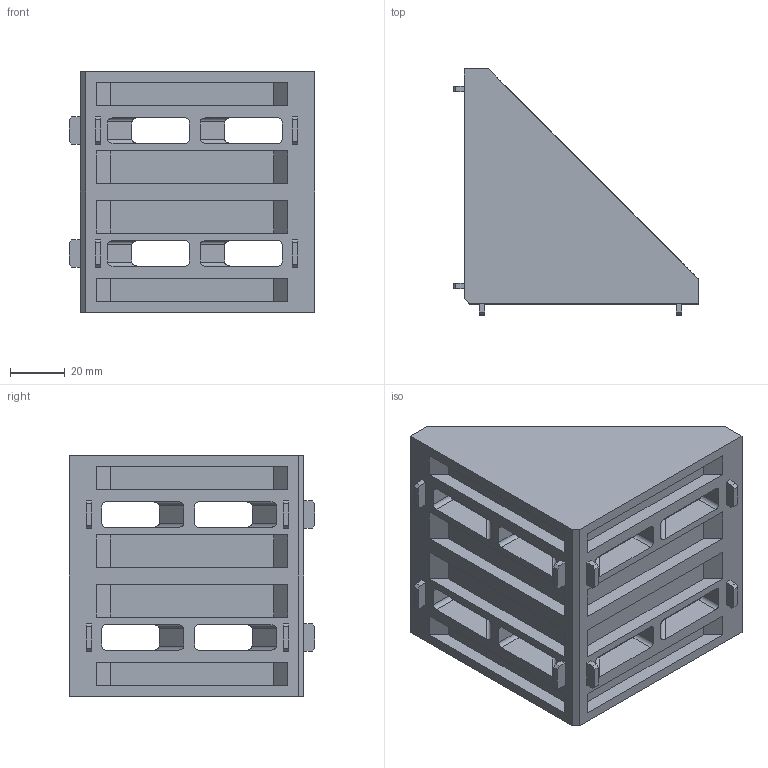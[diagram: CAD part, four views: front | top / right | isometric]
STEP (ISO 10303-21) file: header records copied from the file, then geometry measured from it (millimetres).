
FILE_DESCRIPTION (( 'STEP AP203' ), '1' );
FILE_NAME ('CE-RA9090-10.STEP', '2015-11-26T09:39:15', ( '' ), ( '' ), 'SwSTEP 2.0', 'SolidWorks 2013', '' );
FILE_SCHEMA (( 'CONFIG_CONTROL_DESIGN' ));
Length unit declared in the file: millimetre
Products named in the file (1): CE-RA9090-10
Bounding box: 90 x 90 x 88 mm (x, y, z)
Volume: 122013.7 mm3; surface area: 52115.9 mm2
Topology: 1 solids, 1 shells, 193 faces, 521 edges, 346 vertices
Faces by surface type: plane 157, cylinder 36
Entity records: 6068 total; most frequent: CARTESIAN_POINT 1169, ORIENTED_EDGE 1042, DIRECTION 909, EDGE_CURVE 521, VECTOR 449, LINE 449, VERTEX_POINT 346, AXIS2_PLACEMENT_3D 230
